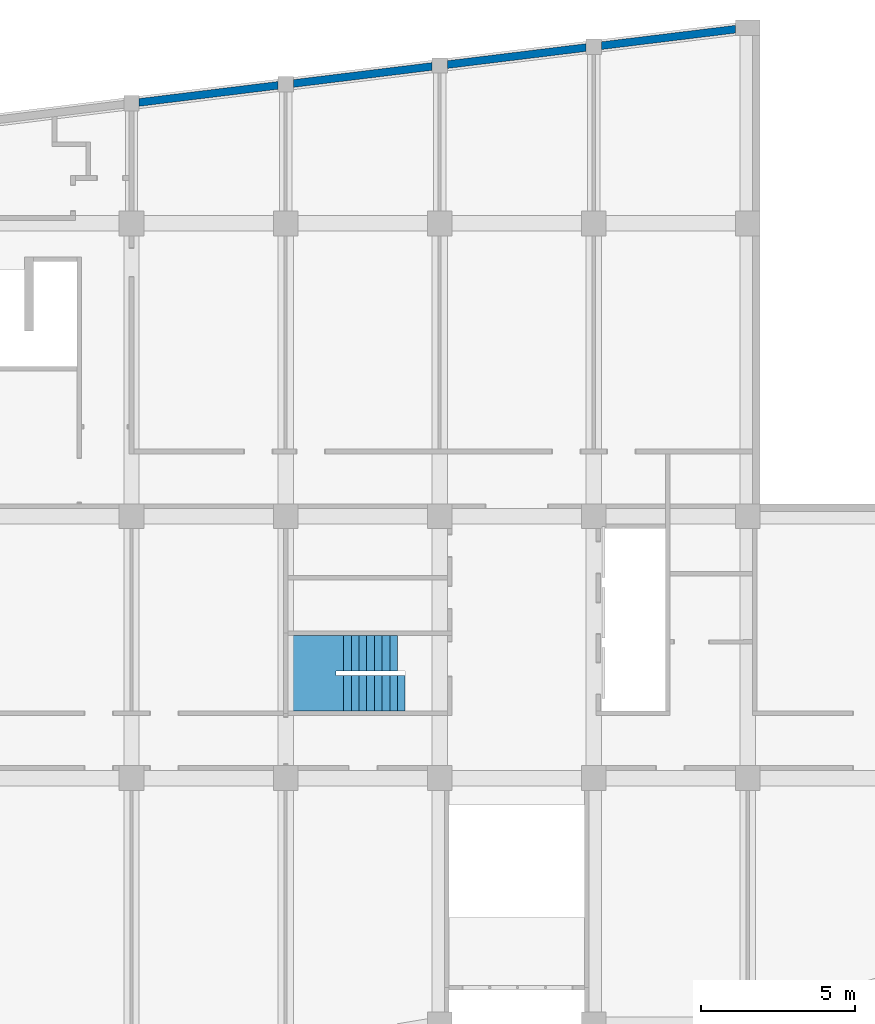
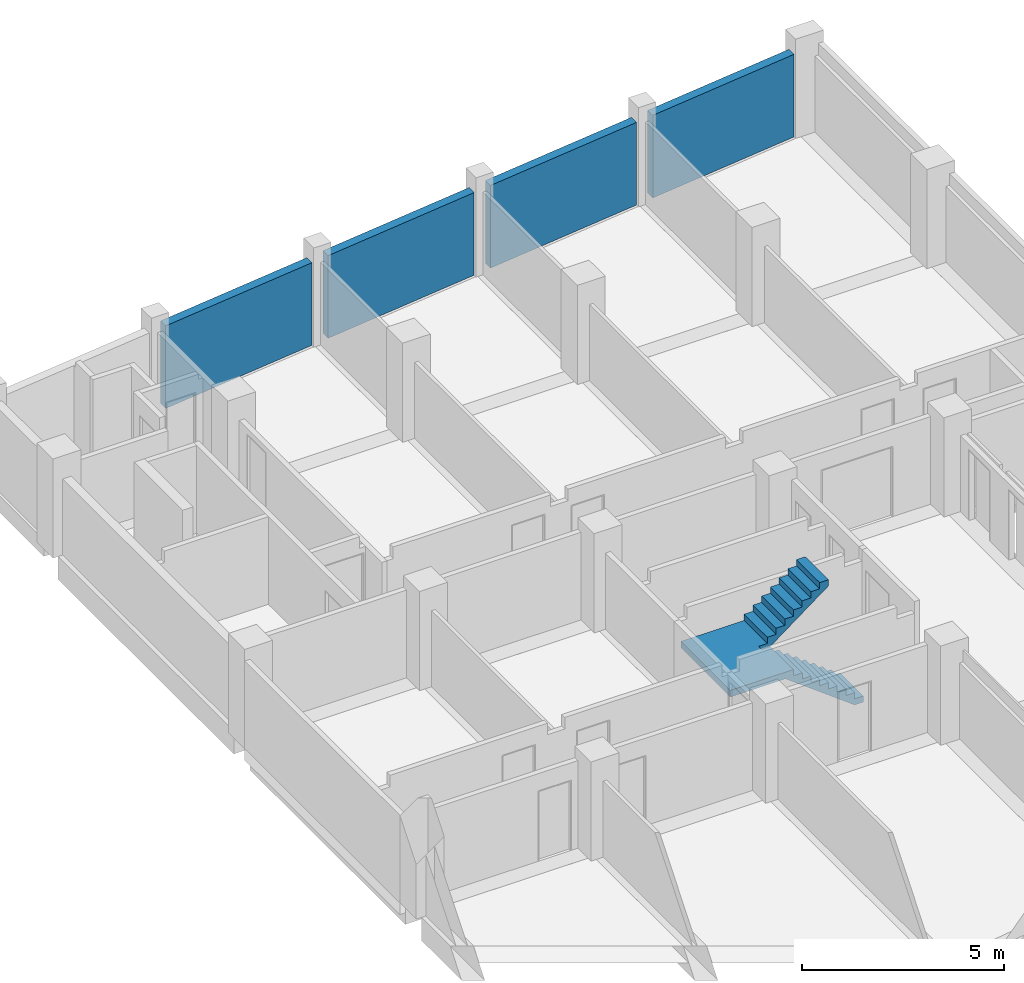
# One storey, part 7 of 7: 4 walls, 1 stair.
"""IFC2X3 building model written with IfcOpenShell, lengths in millimetres."""

from ifc_helpers import new_model, entity, si_unit, converted_unit, derived_unit, money_unit, direction, frame, origin_with_axes, place, context, subcontext, project, spatial, faceted_brep, material, material_list, type_object, element, save


model = new_model("IFC2X3")

# Units and contexts
model_context = context("Model", 3, precision=0.01, world=origin_with_axes(), true_north=direction((0.0, 1.0)))
body_context = subcontext(model_context, "Body", "Model", "MODEL_VIEW")
ifc_project = project(units=[si_unit("LENGTHUNIT", "METRE", prefix="MILLI"), si_unit("AREAUNIT", "SQUARE_METRE"), si_unit("VOLUMEUNIT", "CUBIC_METRE"), converted_unit("PLANEANGLEUNIT", "DEGREE", entity("IfcPlaneAngleMeasure", 0.0174532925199), si_unit("PLANEANGLEUNIT", "RADIAN"), dimensions=[0, 0, 0, 0, 0, 0, 0]), si_unit("SOLIDANGLEUNIT", "STERADIAN"), money_unit("JPY"), converted_unit("TIMEUNIT", "Year", entity("IfcTimeMeasure", 31556926.0), si_unit("TIMEUNIT", "SECOND"), dimensions=[0, 0, 1, 0, 0, 0, 0]), si_unit("MASSUNIT", "GRAM", prefix="KILO"), si_unit("THERMODYNAMICTEMPERATUREUNIT", "DEGREE_CELSIUS"), si_unit("LUMINOUSINTENSITYUNIT", "LUMEN"), si_unit("ENERGYUNIT", "JOULE", prefix="MEGA"), derived_unit("THERMALCONDUCTANCEUNIT", [(si_unit("POWERUNIT", "WATT"), 1), (si_unit("LENGTHUNIT", "METRE"), -1), (si_unit("THERMODYNAMICTEMPERATUREUNIT", "KELVIN"), -1)]), derived_unit("SPECIFICHEATCAPACITYUNIT", [(si_unit("ENERGYUNIT", "JOULE"), 1), (si_unit("MASSUNIT", "GRAM", prefix="KILO"), -1), (si_unit("THERMODYNAMICTEMPERATUREUNIT", "KELVIN"), -1)]), derived_unit("MASSDENSITYUNIT", [(si_unit("MASSUNIT", "GRAM", prefix="KILO"), 1), (si_unit("VOLUMEUNIT", "CUBIC_METRE"), -1)])], contexts=[model_context])

# Site, building, storey
site_placement = place(None, origin_with_axes())
site = spatial("IfcSite", under=ifc_project, at=site_placement, Name="サイト", CompositionType="ELEMENT")
building_placement = place(site_placement, origin_with_axes())
building = spatial("IfcBuilding", under=site, at=building_placement, Name="建築", CompositionType="ELEMENT")
storey_placement = place(building_placement, frame((0.0, 0.0, 3000.0), z_axis=(0.0, 0.0, 1.0), x_axis=(1.0, 0.0, 0.0)))
storey = spatial("IfcBuildingStorey", under=building, at=storey_placement, Name="2FL", CompositionType="ELEMENT", Elevation=3000.0)

# Walls
ifc_material = material(Name="コンクリート")
wall_type = type_object("IfcWallType", Name="コンクリート 250", PredefinedType="NOTDEFINED")
wall_placement = place(storey_placement, frame((25275.0000022, 24386.4094537, 0.0), z_axis=(0.0, 0.0, 1.0), x_axis=(-0.992546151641, -0.121869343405, 0.0)))
element("IfcWall", 1, at=wall_placement, inside=storey, type_object=wall_type, material=ifc_material, Name="W4", context=body_context, shape_type="Brep", body=[
    faceted_brep([(5078.08494524, 125.0, 2500.0), (695.417204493, 125.0, 2500.0), (664.721064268, -125.0, 2500.0), (5047.38880501, -125.0, 2500.0), (5078.08494524, 125.0, 0.0), (695.417204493, 125.0, 0.0), (664.721064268, -125.0, 0.0), (5047.38880501, -125.0, 0.0)], [[[0, 1, 2, 3]], [[4, 5, 1, 0]], [[5, 6, 2, 1]], [[3, 2, 6, 7]], [[4, 0, 3, 7]], [[7, 6, 5, 4]]]),
])
for number, where, z_axis, x_axis, name in (
    (2, (20000.0, 23738.7208947, 0.0), (0.0, 0.0, 1.0), (-0.992546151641, -0.121869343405, 0.0), "W5"),
    (3, (15000.0, 23124.7980902, 0.0), (0.0, 0.0, 1.0), (-0.992546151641, -0.121869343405, 0.0), "W6"),
    (4, (10000.0, 22510.8752856, 0.0), (0.0, 0.0, 1.0), (-0.992546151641, -0.121869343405, 0.0), "W7"),
):
    element("IfcWall", number, at=place(storey_placement, frame(where, z_axis=z_axis, x_axis=x_axis)), inside=storey, type_object=wall_type, material=ifc_material, Name=name, context=body_context, shape_type="Brep", body=[
        faceted_brep([(4801.01974104, 125.0, 2500.0), (267.225526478, 125.0, 2500.0), (236.529386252, -125.0, 2500.0), (4770.32360082, -125.0, 2500.0), (4801.01974104, 125.0, 0.0), (267.225526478, 125.0, 0.0), (236.529386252, -125.0, 0.0), (4770.32360082, -125.0, 0.0)], [[[0, 1, 2, 3]], [[4, 5, 1, 0]], [[5, 6, 2, 1]], [[3, 2, 6, 7]], [[4, 0, 3, 7]], [[7, 6, 5, 4]]]),
    ])

# Stair
ifc_material_list = material_list([ifc_material, ifc_material, ifc_material])
stair_placement = place(storey_placement, frame((13881.205244, 3325.0, 0.0), z_axis=(0.0, 0.0, 1.0), x_axis=(1.0, 0.0, 0.0)))
element("IfcStair", 5, at=stair_placement, inside=storey, material=ifc_material_list, Name="K1", ShapeType="NOTDEFINED", context=body_context, shape_type="Brep", body=[
    faceted_brep([(-2000.0, 0.0, 1487.5), (-2000.0, -1150.0, 1487.5), (-2000.0, -1150.0, 1500.0), (-2000.0, 0.0, 1500.0), (-2233.33333333, 0.0, 1487.5), (-2233.33333333, -1150.0, 1487.5), (-2000.0, -1150.0, 1312.5), (-1916.66666667, -1150.0, 1250.0), (-1833.33333333, -1150.0, 1187.5), (-1750.0, -1150.0, 1125.0), (-1666.66666667, -1150.0, 1062.5), (-1583.33333333, -1150.0, 1000.0), (-1500.0, -1150.0, 937.5), (-1416.66666667, -1150.0, 875.0), (-1333.33333333, -1150.0, 812.5), (-1250.0, -1150.0, 750.0), (-1166.66666667, -1150.0, 687.5), (-1083.33333333, -1150.0, 625.0), (-1000.0, -1150.0, 562.5), (-916.666666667, -1150.0, 500.0), (-833.333333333, -1150.0, 437.5), (-750.0, -1150.0, 375.0), (-666.666666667, -1150.0, 312.5), (-583.333333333, -1150.0, 250.0), (-500.0, -1150.0, 187.5), (-416.666666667, -1150.0, 125.0), (-333.333333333, -1150.0, 62.5), (-250.0, -1150.0, 0.0), (0.0, -1150.0, 0.0), (0.0, -1150.0, 187.5), (-250.0, -1150.0, 187.5), (-250.0, -1150.0, 375.0), (-500.0, -1150.0, 375.0), (-500.0, -1150.0, 562.5), (-750.0, -1150.0, 562.5), (-750.0, -1150.0, 750.0), (-1000.0, -1150.0, 750.0), (-1000.0, -1150.0, 937.5), (-1250.0, -1150.0, 937.5), (-1250.0, -1150.0, 1125.0), (-1500.0, -1150.0, 1125.0), (-1500.0, -1150.0, 1312.5), (-1750.0, -1150.0, 1312.5), (-1750.0, -1150.0, 1500.0), (-1750.0, 0.0, 1500.0), (-1750.0, 0.0, 1312.5), (-1500.0, 0.0, 1312.5), (-1500.0, 0.0, 1125.0), (-1250.0, 0.0, 1125.0), (-1250.0, 0.0, 937.5), (-1000.0, 0.0, 937.5), (-1000.0, 0.0, 750.0), (-750.0, 0.0, 750.0), (-750.0, 0.0, 562.5), (-500.0, 0.0, 562.5), (-500.0, 0.0, 375.0), (-250.0, 0.0, 375.0), (-250.0, 0.0, 187.5), (0.0, 0.0, 187.5), (0.0, 0.0, 0.0), (-250.0, 0.0, 0.0), (-333.333333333, 0.0, 62.5), (-416.666666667, 0.0, 125.0), (-500.0, 0.0, 187.5), (-583.333333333, 0.0, 250.0), (-666.666666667, 0.0, 312.5), (-750.0, 0.0, 375.0), (-833.333333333, 0.0, 437.5), (-916.666666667, 0.0, 500.0), (-1000.0, 0.0, 562.5), (-1083.33333333, 0.0, 625.0), (-1166.66666667, 0.0, 687.5), (-1250.0, 0.0, 750.0), (-1333.33333333, 0.0, 812.5), (-1416.66666667, 0.0, 875.0), (-1500.0, 0.0, 937.5), (-1583.33333333, 0.0, 1000.0), (-1666.66666667, 0.0, 1062.5), (-1750.0, 0.0, 1125.0), (-1833.33333333, 0.0, 1187.5), (-1916.66666667, 0.0, 1250.0), (-2000.0, 0.0, 1312.5)], [[[0, 1, 2, 3]], [[1, 0, 4, 5]], [[6, 7, 8, 9, 10, 11, 12, 13, 14, 15, 16, 17, 18, 19, 20, 21, 22, 23, 24, 25, 26, 27, 28, 29, 30, 31, 32, 33, 34, 35, 36, 37, 38, 39, 40, 41, 42, 43, 2, 1, 5]], [[44, 3, 2, 43]], [[0, 3, 44, 45, 46, 47, 48, 49, 50, 51, 52, 53, 54, 55, 56, 57, 58, 59, 60, 61, 62, 63, 64, 65, 66, 67, 68, 69, 70, 71, 72, 73, 74, 75, 76, 77, 78, 79, 80, 81, 4]], [[81, 80, 7, 6, 5, 4]], [[7, 80, 79, 8]], [[8, 79, 78, 9]], [[9, 78, 77, 10]], [[10, 77, 76, 11]], [[11, 76, 75, 12]], [[12, 75, 74, 13]], [[13, 74, 73, 14]], [[14, 73, 72, 15]], [[15, 72, 71, 16]], [[16, 71, 70, 17]], [[17, 70, 69, 18]], [[18, 69, 68, 19]], [[19, 68, 67, 20]], [[20, 67, 66, 21]], [[21, 66, 65, 22]], [[22, 65, 64, 23]], [[23, 64, 63, 24]], [[24, 63, 62, 25]], [[25, 62, 61, 26]], [[26, 61, 60, 27]], [[60, 59, 28, 27]], [[28, 59, 58, 29]], [[29, 58, 57, 30]], [[56, 31, 30, 57]], [[31, 56, 55, 32]], [[54, 33, 32, 55]], [[33, 54, 53, 34]], [[52, 35, 34, 53]], [[35, 52, 51, 36]], [[50, 37, 36, 51]], [[37, 50, 49, 38]], [[48, 39, 38, 49]], [[39, 48, 47, 40]], [[46, 41, 40, 47]], [[41, 46, 45, 42]], [[44, 43, 42, 45]]]),
    faceted_brep([(-2016.66666667, 150.0, 1687.5), (-2016.66666667, 1300.0, 1687.5), (-3806.20524398, 1300.0, 1687.5), (-3806.20524398, -1150.0, 1687.5), (-2000.0, -1150.0, 1687.5), (-2000.0, 0.0, 1687.5), (-2250.0, 0.0, 1687.5), (-2250.0, 150.0, 1687.5), (-2016.66666667, 1300.0, 1487.5), (-2016.66666667, 150.0, 1487.5), (-3806.20524398, 1300.0, 1487.5), (-3806.20524398, -1150.0, 1487.5), (-2000.0, -1150.0, 1487.5), (-2000.0, 0.0, 1487.5), (-2250.0, 0.0, 1487.5), (-2250.0, 150.0, 1487.5)], [[[0, 1, 2, 3, 4, 5, 6, 7]], [[8, 1, 0, 9]], [[1, 8, 10, 2]], [[2, 10, 11, 3]], [[3, 11, 12, 4]], [[4, 12, 13, 5]], [[5, 13, 14, 6]], [[6, 14, 15, 7]], [[9, 0, 7, 15]], [[8, 9, 15, 14, 13, 12, 11, 10]]]),
    faceted_brep([(-1916.66666667, 150.0, 1562.5), (-2000.0, 150.0, 1500.0), (-2000.0, 1300.0, 1500.0), (-1916.66666667, 1300.0, 1562.5), (-2016.66666667, 150.0, 1487.5), (-1833.33333333, 150.0, 1625.0), (-1750.0, 150.0, 1687.5), (-1666.66666667, 150.0, 1750.0), (-1583.33333333, 150.0, 1812.5), (-1500.0, 150.0, 1875.0), (-1416.66666667, 150.0, 1937.5), (-1333.33333333, 150.0, 2000.0), (-1250.0, 150.0, 2062.5), (-1166.66666667, 150.0, 2125.0), (-1083.33333333, 150.0, 2187.5), (-1000.0, 150.0, 2250.0), (-916.666666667, 150.0, 2312.5), (-833.333333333, 150.0, 2375.0), (-750.0, 150.0, 2437.5), (-666.666666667, 150.0, 2500.0), (-583.333333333, 150.0, 2562.5), (-500.0, 150.0, 2625.0), (-416.666666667, 150.0, 2687.5), (-333.333333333, 150.0, 2750.0), (-250.0, 150.0, 2812.5), (-250.0, 150.0, 3000.0), (-500.0, 150.0, 3000.0), (-500.0, 150.0, 2812.5), (-750.0, 150.0, 2812.5), (-750.0, 150.0, 2625.0), (-1000.0, 150.0, 2625.0), (-1000.0, 150.0, 2437.5), (-1250.0, 150.0, 2437.5), (-1250.0, 150.0, 2250.0), (-1500.0, 150.0, 2250.0), (-1500.0, 150.0, 2062.5), (-1750.0, 150.0, 2062.5), (-1750.0, 150.0, 1875.0), (-2000.0, 150.0, 1875.0), (-2000.0, 150.0, 1687.5), (-2016.66666667, 150.0, 1687.5), (-2016.66666667, 1300.0, 1487.5), (-2016.66666667, 1300.0, 1687.5), (-2000.0, 1300.0, 1687.5), (-2000.0, 1300.0, 1875.0), (-1750.0, 1300.0, 1875.0), (-1750.0, 1300.0, 2062.5), (-1500.0, 1300.0, 2062.5), (-1500.0, 1300.0, 2250.0), (-1250.0, 1300.0, 2250.0), (-1250.0, 1300.0, 2437.5), (-1000.0, 1300.0, 2437.5), (-1000.0, 1300.0, 2625.0), (-750.0, 1300.0, 2625.0), (-750.0, 1300.0, 2812.5), (-500.0, 1300.0, 2812.5), (-500.0, 1300.0, 3000.0), (-250.0, 1300.0, 3000.0), (-250.0, 1300.0, 2812.5), (-333.333333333, 1300.0, 2750.0), (-416.666666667, 1300.0, 2687.5), (-500.0, 1300.0, 2625.0), (-583.333333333, 1300.0, 2562.5), (-666.666666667, 1300.0, 2500.0), (-750.0, 1300.0, 2437.5), (-833.333333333, 1300.0, 2375.0), (-916.666666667, 1300.0, 2312.5), (-1000.0, 1300.0, 2250.0), (-1083.33333333, 1300.0, 2187.5), (-1166.66666667, 1300.0, 2125.0), (-1250.0, 1300.0, 2062.5), (-1333.33333333, 1300.0, 2000.0), (-1416.66666667, 1300.0, 1937.5), (-1500.0, 1300.0, 1875.0), (-1583.33333333, 1300.0, 1812.5), (-1666.66666667, 1300.0, 1750.0), (-1750.0, 1300.0, 1687.5), (-1833.33333333, 1300.0, 1625.0)], [[[0, 1, 2, 3]], [[4, 1, 0, 5, 6, 7, 8, 9, 10, 11, 12, 13, 14, 15, 16, 17, 18, 19, 20, 21, 22, 23, 24, 25, 26, 27, 28, 29, 30, 31, 32, 33, 34, 35, 36, 37, 38, 39, 40]], [[41, 2, 1, 4]], [[42, 43, 44, 45, 46, 47, 48, 49, 50, 51, 52, 53, 54, 55, 56, 57, 58, 59, 60, 61, 62, 63, 64, 65, 66, 67, 68, 69, 70, 71, 72, 73, 74, 75, 76, 77, 3, 2, 41]], [[5, 0, 3, 77]], [[6, 5, 77, 76]], [[7, 6, 76, 75]], [[8, 7, 75, 74]], [[9, 8, 74, 73]], [[10, 9, 73, 72]], [[11, 10, 72, 71]], [[12, 11, 71, 70]], [[13, 12, 70, 69]], [[14, 13, 69, 68]], [[15, 14, 68, 67]], [[16, 15, 67, 66]], [[17, 16, 66, 65]], [[18, 17, 65, 64]], [[19, 18, 64, 63]], [[20, 19, 63, 62]], [[21, 20, 62, 61]], [[22, 21, 61, 60]], [[23, 22, 60, 59]], [[23, 59, 58, 24]], [[57, 25, 24, 58]], [[56, 26, 25, 57]], [[27, 26, 56, 55]], [[55, 54, 28, 27]], [[29, 28, 54, 53]], [[53, 52, 30, 29]], [[31, 30, 52, 51]], [[51, 50, 32, 31]], [[33, 32, 50, 49]], [[49, 48, 34, 33]], [[35, 34, 48, 47]], [[47, 46, 36, 35]], [[37, 36, 46, 45]], [[45, 44, 38, 37]], [[44, 43, 39, 38]], [[40, 39, 43, 42]], [[41, 4, 40, 42]]]),
])

save(model, "model.ifc")
